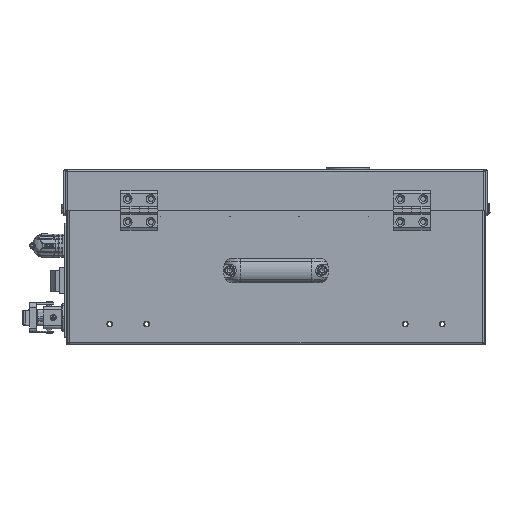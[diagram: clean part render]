
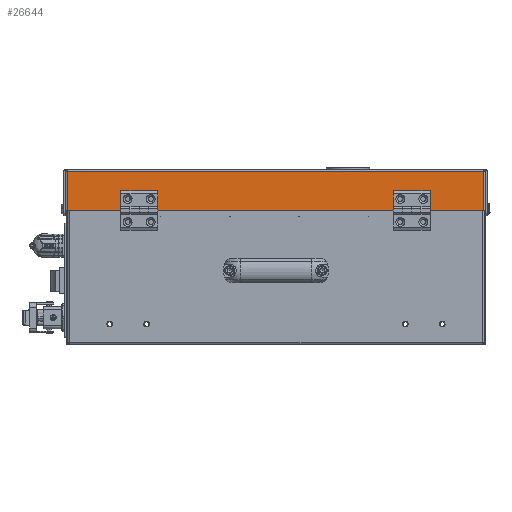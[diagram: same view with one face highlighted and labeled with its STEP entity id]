
A CAD part, front view. The second image highlights one B-rep face of the part: STEP entity #26644.
In plain terms, the highlighted planar face has unit normal (0, -1, 0) as drawn and (0, 1, 0) by its records, which use the part's own axes.
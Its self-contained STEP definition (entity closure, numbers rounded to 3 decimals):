
#838 = VERTEX_POINT ( 'NONE', #89075 ) ;
#7037 = PLANE ( 'NONE',  #28500 ) ;
#7688 = FACE_BOUND ( 'NONE', #128519, .T. ) ;
#8318 = FACE_OUTER_BOUND ( 'NONE', #108316, .T. ) ;
#9125 = DIRECTION ( 'NONE',  ( 0., 1., 0. ) ) ;
#12027 = VERTEX_POINT ( 'NONE', #63875 ) ;
#12130 = CARTESIAN_POINT ( 'NONE',  ( 0., 85., 0.5 ) ) ;
#12800 = DIRECTION ( 'NONE',  ( 0., 0., 1. ) ) ;
#13773 = VERTEX_POINT ( 'NONE', #67228 ) ;
#15449 = VECTOR ( 'NONE', #61856, 1000. ) ;
#18965 = LINE ( 'NONE', #59856, #124429 ) ;
#19199 = DIRECTION ( 'NONE',  ( 0., 1., 0. ) ) ;
#19299 = CARTESIAN_POINT ( 'NONE',  ( -135., 85., 30.5 ) ) ;
#20209 = EDGE_CURVE ( 'NONE', #12027, #48486, #120787, .T. ) ;
#25232 = DIRECTION ( 'NONE',  ( 0., 1., 0. ) ) ;
#25848 = VERTEX_POINT ( 'NONE', #134501 ) ;
#26412 = AXIS2_PLACEMENT_3D ( 'NONE', #72767, #115625, #12800 ) ;
#26641 = VERTEX_POINT ( 'NONE', #92077 ) ;
#26644 = ADVANCED_FACE ( 'NONE', ( #7688, #28079, #61406, #130878, #8318 ), #7037, .T. ) ;
#27507 = DIRECTION ( 'NONE',  ( 0., 0., 1. ) ) ;
#28079 = FACE_BOUND ( 'NONE', #45571, .T. ) ;
#28146 = EDGE_CURVE ( 'NONE', #13773, #64762, #118606, .T. ) ;
#28361 = DIRECTION ( 'NONE',  ( 0., 0., 1. ) ) ;
#28500 = AXIS2_PLACEMENT_3D ( 'NONE', #111829, #19199, #113138 ) ;
#31370 = CIRCLE ( 'NONE', #90198, 2.65 ) ;
#36292 = CARTESIAN_POINT ( 'NONE',  ( 225.4, 85., 28.5 ) ) ;
#37062 = CARTESIAN_POINT ( 'NONE',  ( 160., 85., 27.85 ) ) ;
#37928 = DIRECTION ( 'NONE',  ( 0., 0., 1. ) ) ;
#40726 = LINE ( 'NONE', #12130, #15449 ) ;
#41418 = DIRECTION ( 'NONE',  ( 0., 0., 1. ) ) ;
#43369 = ORIENTED_EDGE ( 'NONE', *, *, #85704, .F. ) ;
#44443 = EDGE_LOOP ( 'NONE', ( #52726, #100436 ) ) ;
#44587 = CARTESIAN_POINT ( 'NONE',  ( 225.4, 85., 43. ) ) ;
#45571 = EDGE_LOOP ( 'NONE', ( #128909, #123534 ) ) ;
#47207 = VERTEX_POINT ( 'NONE', #87181 ) ;
#47681 = CARTESIAN_POINT ( 'NONE',  ( 160., 85., 30.5 ) ) ;
#48486 = VERTEX_POINT ( 'NONE', #50363 ) ;
#49467 = DIRECTION ( 'NONE',  ( 0., 1., 0. ) ) ;
#50237 = ORIENTED_EDGE ( 'NONE', *, *, #20209, .F. ) ;
#50363 = CARTESIAN_POINT ( 'NONE',  ( -160., 85., 33.15 ) ) ;
#50434 = AXIS2_PLACEMENT_3D ( 'NONE', #50659, #9125, #123438 ) ;
#50659 = CARTESIAN_POINT ( 'NONE',  ( 135., 85., 30.5 ) ) ;
#51233 = VERTEX_POINT ( 'NONE', #57973 ) ;
#52726 = ORIENTED_EDGE ( 'NONE', *, *, #70414, .F. ) ;
#56162 = VERTEX_POINT ( 'NONE', #113491 ) ;
#57973 = CARTESIAN_POINT ( 'NONE',  ( 135., 85., 27.85 ) ) ;
#59856 = CARTESIAN_POINT ( 'NONE',  ( -225.4, 85., 0. ) ) ;
#60344 = CARTESIAN_POINT ( 'NONE',  ( 160., 85., 30.5 ) ) ;
#61406 = FACE_BOUND ( 'NONE', #106702, .T. ) ;
#61856 = DIRECTION ( 'NONE',  ( -1., 0., 0. ) ) ;
#63841 = DIRECTION ( 'NONE',  ( 0., 0., 1. ) ) ;
#63864 = ORIENTED_EDGE ( 'NONE', *, *, #93214, .F. ) ;
#63875 = CARTESIAN_POINT ( 'NONE',  ( -160., 85., 27.85 ) ) ;
#64762 = VERTEX_POINT ( 'NONE', #44587 ) ;
#67228 = CARTESIAN_POINT ( 'NONE',  ( -225.4, 85., 43. ) ) ;
#68803 = AXIS2_PLACEMENT_3D ( 'NONE', #19299, #130981, #27507 ) ;
#69749 = VECTOR ( 'NONE', #77816, 1000. ) ;
#70414 = EDGE_CURVE ( 'NONE', #26641, #77557, #74102, .T. ) ;
#72767 = CARTESIAN_POINT ( 'NONE',  ( -160., 85., 30.5 ) ) ;
#73170 = ORIENTED_EDGE ( 'NONE', *, *, #102419, .F. ) ;
#74102 = CIRCLE ( 'NONE', #87150, 2.65 ) ;
#74270 = VERTEX_POINT ( 'NONE', #87506 ) ;
#75750 = ORIENTED_EDGE ( 'NONE', *, *, #114315, .T. ) ;
#77557 = VERTEX_POINT ( 'NONE', #37062 ) ;
#77681 = EDGE_CURVE ( 'NONE', #74270, #56162, #120954, .T. ) ;
#77816 = DIRECTION ( 'NONE',  ( 0., 0., 1. ) ) ;
#79035 = DIRECTION ( 'NONE',  ( 0., 0., 1. ) ) ;
#80113 = DIRECTION ( 'NONE',  ( 0., 1., 0. ) ) ;
#80447 = DIRECTION ( 'NONE',  ( 1., 0., 0. ) ) ;
#85704 = EDGE_CURVE ( 'NONE', #51233, #838, #31370, .T. ) ;
#87150 = AXIS2_PLACEMENT_3D ( 'NONE', #47681, #25232, #79035 ) ;
#87181 = CARTESIAN_POINT ( 'NONE',  ( -225.4, 85., 0.5 ) ) ;
#87353 = CIRCLE ( 'NONE', #26412, 2.65 ) ;
#87447 = EDGE_CURVE ( 'NONE', #25848, #64762, #88048, .T. ) ;
#87491 = VECTOR ( 'NONE', #80447, 1000. ) ;
#87506 = CARTESIAN_POINT ( 'NONE',  ( -135., 85., 33.15 ) ) ;
#88048 = LINE ( 'NONE', #36292, #69749 ) ;
#89075 = CARTESIAN_POINT ( 'NONE',  ( 135., 85., 33.15 ) ) ;
#90198 = AXIS2_PLACEMENT_3D ( 'NONE', #102555, #49467, #37928 ) ;
#92077 = CARTESIAN_POINT ( 'NONE',  ( 160., 85., 33.15 ) ) ;
#92523 = AXIS2_PLACEMENT_3D ( 'NONE', #104725, #114933, #41418 ) ;
#93214 = EDGE_CURVE ( 'NONE', #48486, #12027, #87353, .T. ) ;
#94920 = EDGE_CURVE ( 'NONE', #77557, #26641, #130850, .T. ) ;
#95347 = EDGE_CURVE ( 'NONE', #13773, #47207, #18965, .T. ) ;
#98360 = CIRCLE ( 'NONE', #106994, 2.65 ) ;
#100418 = CIRCLE ( 'NONE', #50434, 2.65 ) ;
#100436 = ORIENTED_EDGE ( 'NONE', *, *, #94920, .F. ) ;
#102419 = EDGE_CURVE ( 'NONE', #838, #51233, #100418, .T. ) ;
#102459 = ORIENTED_EDGE ( 'NONE', *, *, #28146, .T. ) ;
#102555 = CARTESIAN_POINT ( 'NONE',  ( 135., 85., 30.5 ) ) ;
#102739 = EDGE_CURVE ( 'NONE', #56162, #74270, #98360, .T. ) ;
#103367 = DIRECTION ( 'NONE',  ( 0., 1., 0. ) ) ;
#104725 = CARTESIAN_POINT ( 'NONE',  ( -160., 85., 30.5 ) ) ;
#106017 = ORIENTED_EDGE ( 'NONE', *, *, #95347, .F. ) ;
#106702 = EDGE_LOOP ( 'NONE', ( #73170, #43369 ) ) ;
#106994 = AXIS2_PLACEMENT_3D ( 'NONE', #125084, #103367, #63841 ) ;
#108316 = EDGE_LOOP ( 'NONE', ( #108425, #75750, #106017, #102459 ) ) ;
#108425 = ORIENTED_EDGE ( 'NONE', *, *, #87447, .F. ) ;
#111829 = CARTESIAN_POINT ( 'NONE',  ( 0., 85., 0. ) ) ;
#112249 = DIRECTION ( 'NONE',  ( 0., 0., -1. ) ) ;
#113138 = DIRECTION ( 'NONE',  ( 0., 0., 1. ) ) ;
#113491 = CARTESIAN_POINT ( 'NONE',  ( -135., 85., 27.85 ) ) ;
#114315 = EDGE_CURVE ( 'NONE', #25848, #47207, #40726, .T. ) ;
#114933 = DIRECTION ( 'NONE',  ( 0., 1., 0. ) ) ;
#115625 = DIRECTION ( 'NONE',  ( 0., 1., 0. ) ) ;
#118606 = LINE ( 'NONE', #132815, #87491 ) ;
#120787 = CIRCLE ( 'NONE', #92523, 2.65 ) ;
#120954 = CIRCLE ( 'NONE', #68803, 2.65 ) ;
#123438 = DIRECTION ( 'NONE',  ( 0., 0., 1. ) ) ;
#123534 = ORIENTED_EDGE ( 'NONE', *, *, #102739, .F. ) ;
#124429 = VECTOR ( 'NONE', #112249, 1000. ) ;
#125084 = CARTESIAN_POINT ( 'NONE',  ( -135., 85., 30.5 ) ) ;
#128519 = EDGE_LOOP ( 'NONE', ( #63864, #50237 ) ) ;
#128909 = ORIENTED_EDGE ( 'NONE', *, *, #77681, .F. ) ;
#130850 = CIRCLE ( 'NONE', #132989, 2.65 ) ;
#130878 = FACE_BOUND ( 'NONE', #44443, .T. ) ;
#130981 = DIRECTION ( 'NONE',  ( 0., 1., 0. ) ) ;
#132815 = CARTESIAN_POINT ( 'NONE',  ( 225.4, 85., 43. ) ) ;
#132989 = AXIS2_PLACEMENT_3D ( 'NONE', #60344, #80113, #28361 ) ;
#134501 = CARTESIAN_POINT ( 'NONE',  ( 225.4, 85., 0.5 ) ) ;
